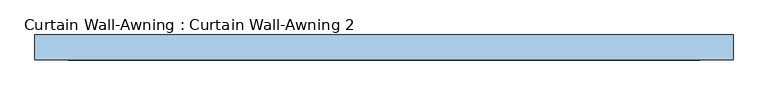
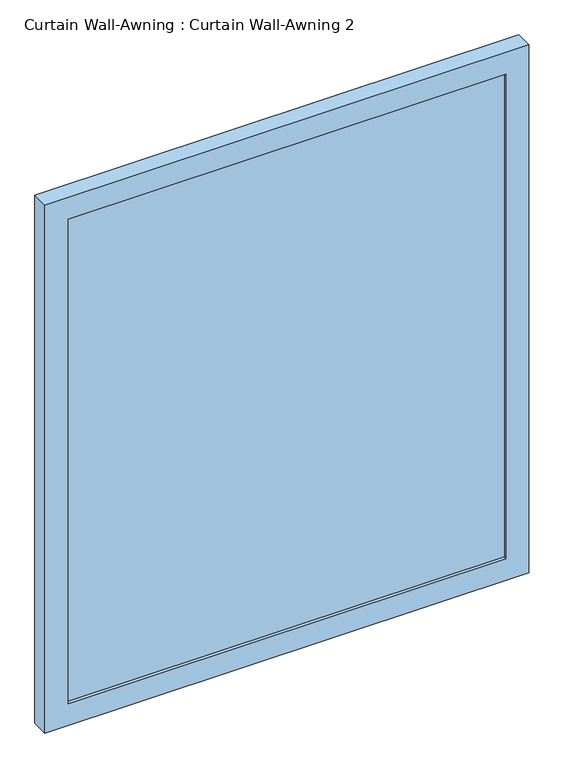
"""IFC4 building model written with IfcOpenShell, lengths in millimetres: window geometry, Curtain Wall-Awning : Curtain Wall-Awning 2."""

from ifc_helpers import new_model, si_unit, frame, origin, place, context, project, spatial, polyline, outline, extrude, source, transform, mapped, element, save


def curtain_wall_awning_curtain_wall_awning_2_f2d84640(model_context):
    return source(origin(), model_context, "Body", "SweptSolid", [
        extrude(outline(polyline([(481.0125, 19.05), (481.0125, 6.35), (-481.0125, 6.35), (-481.0125, 19.05), (481.0125, 19.05)])), frame((0.0, 0.0, 50.8), z_axis=(0.0, 0.0, 1.0), x_axis=(1.0, 0.0, 0.0)), (0.0, 0.0, 1.0), 1124.7800169),
        extrude(outline(polyline([(1226.3800169, -531.8125), (0.0, -531.8125), (0.0, 531.8125), (1226.3800169, 531.8125), (1226.3800169, -531.8125)]), holes=[polyline([(1175.5800169, -481.0125), (1175.5800169, 481.0125), (50.8, 481.0125), (50.8, -481.0125), (1175.5800169, -481.0125)])]), frame((0.0, 0.0, 0.0), z_axis=(0.0, 1.0, 0.0), x_axis=(0.0, 0.0, 1.0)), (0.0, 0.0, 1.0), 38.1),
    ])


if __name__ == "__main__":
    model = new_model("IFC4")
    model_context = context("Model", 3, world=origin())
    ifc_project = project(units=[si_unit("LENGTHUNIT", "METRE", prefix="MILLI")], contexts=[model_context])
    site = spatial("IfcSite", under=ifc_project)
    building = spatial("IfcBuilding", under=site)
    placement = place(None, origin())
    curtain_wall_awning_curtain_wall_awning_2_shape = curtain_wall_awning_curtain_wall_awning_2_f2d84640(model_context)
    element("IfcWindow", 1, ObjectType="Curtain Wall-Awning : Curtain Wall-Awning 2", at=placement, inside=building, context=model_context, shape_type="MappedRepresentation", body=[
        mapped(curtain_wall_awning_curtain_wall_awning_2_shape, transform((0.0, 0.0, 0.0), x_axis=(1.0, 0.0, 0.0), y_axis=(0.0, 1.0, 0.0), z_axis=(0.0, 0.0, 1.0))),
    ])
    save(model, "model.ifc")
